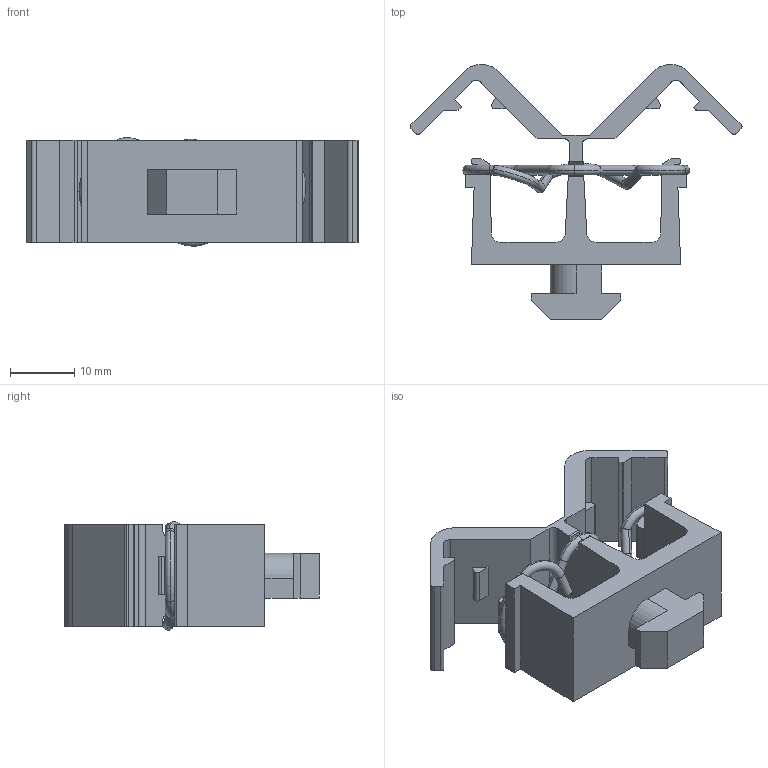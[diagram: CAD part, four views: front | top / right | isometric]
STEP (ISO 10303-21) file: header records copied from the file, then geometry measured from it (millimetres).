
FILE_DESCRIPTION (( 'STEP AP203' ), '1' );
FILE_NAME ('0108KSCHH.STEP', '2024-09-04T08:37:09', ( 'Windows-Benutzer' ), ( '' ), 'SwSTEP 2.0', 'SolidWorks 2024', '' );
FILE_SCHEMA (( 'CONFIG_CONTROL_DESIGN' ));
Length unit declared in the file: millimetre
Products named in the file (1): 0108KSCHH
Bounding box: 51.73 x 39.68 x 16.9 mm (x, y, z)
Volume: 6939 mm3; surface area: 6282.5 mm2
Topology: 1 solids, 1 shells, 162 faces, 453 edges, 294 vertices
Faces by surface type: plane 78, cylinder 56, torus 25, sphere 3
Entity records: 5349 total; most frequent: CARTESIAN_POINT 1019, DIRECTION 914, ORIENTED_EDGE 906, EDGE_CURVE 453, AXIS2_PLACEMENT_3D 325, VERTEX_POINT 294, VECTOR 264, LINE 264
